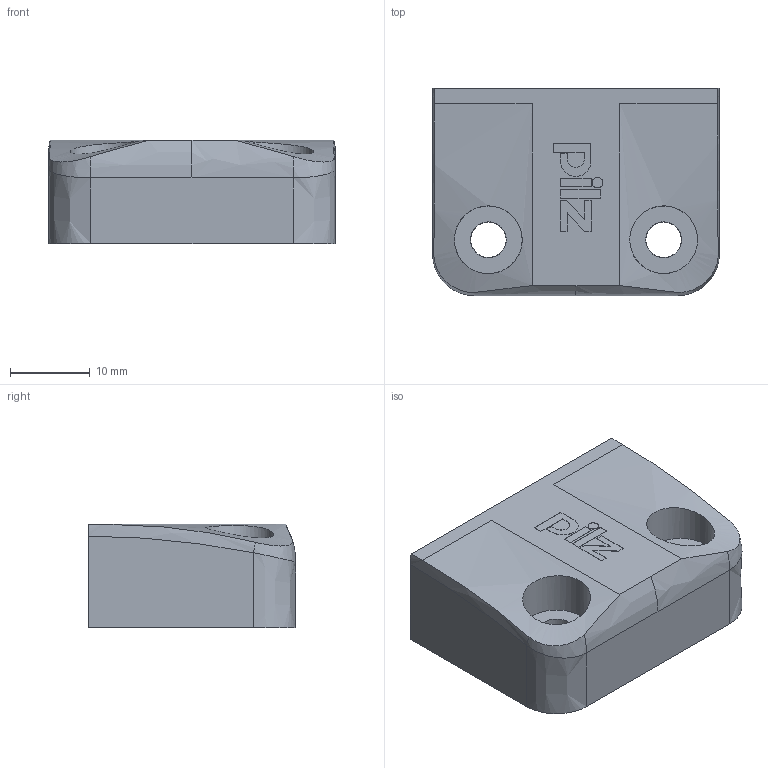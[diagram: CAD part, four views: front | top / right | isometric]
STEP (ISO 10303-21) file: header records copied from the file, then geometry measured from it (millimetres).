
FILE_DESCRIPTION((''),'2;1');
FILE_NAME('E:\Vault Daten\Projektordner\Sensoren\Magnetschalter\Kundendaten\H302970-A_A_36x26x13mm.stp','2011-09-19T14:36:21',('pschmucki'),(''),'Autodesk Inventor 2010','Autodesk Inventor 2010','');
FILE_SCHEMA(('CONFIG_CONTROL_DESIGN'));
Length unit declared in the file: millimetre
Products named in the file (1): H302970_PSEN_1.x_2.x_Betätiger_Konturvereinfachung_1
Bounding box: 36 x 26 x 13 mm (x, y, z)
Volume: 10709.7 mm3; surface area: 3721.9 mm2
Topology: 1 solids, 1 shells, 72 faces, 196 edges, 135 vertices
Faces by surface type: plane 51, bspline 15, cylinder 4, cone 2
Full cylindrical faces by diameter (mm): 1.334 x1, 8.5 x1
Entity records: 3535 total; most frequent: CARTESIAN_POINT 1810, ORIENTED_EDGE 382, DIRECTION 265, EDGE_CURVE 191, VERTEX_POINT 133, VECTOR 125, LINE 125, EDGE_LOOP 88
